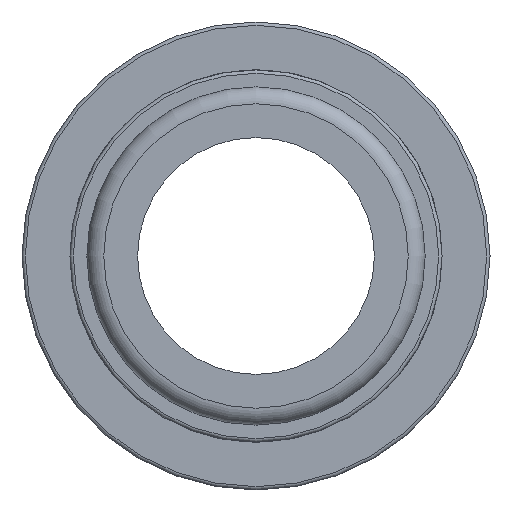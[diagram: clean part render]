
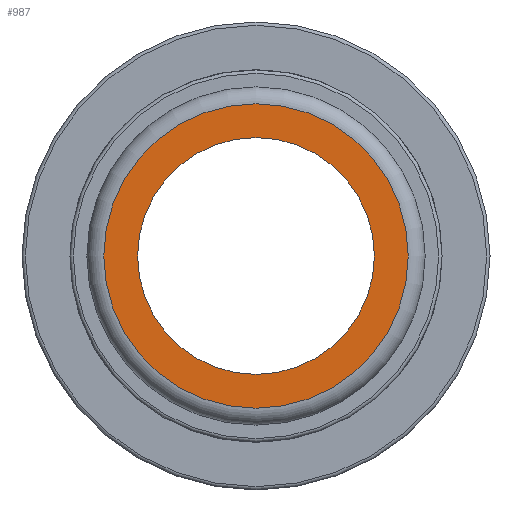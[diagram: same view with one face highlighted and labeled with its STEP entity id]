
A CAD part, left-side view. The second image highlights one B-rep face of the part: STEP entity #987.
In plain terms, the highlighted planar face has unit normal (-1, 0, 0).
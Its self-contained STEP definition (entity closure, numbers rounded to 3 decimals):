
#181=PLANE('',#1101);
#217=FACE_BOUND('',#343,.T.);
#273=FACE_OUTER_BOUND('',#342,.T.);
#342=EDGE_LOOP('',(#913));
#343=EDGE_LOOP('',(#914));
#402=CIRCLE('',#1099,14.962);
#404=CIRCLE('',#1102,11.637);
#500=VERTEX_POINT('',#1872);
#502=VERTEX_POINT('',#1877);
#640=EDGE_CURVE('',#500,#500,#402,.T.);
#642=EDGE_CURVE('',#502,#502,#404,.T.);
#913=ORIENTED_EDGE('',*,*,#640,.F.);
#914=ORIENTED_EDGE('',*,*,#642,.T.);
#987=ADVANCED_FACE('',(#273,#217),#181,.T.);
#1099=AXIS2_PLACEMENT_3D('',#1873,#1380,#1381);
#1101=AXIS2_PLACEMENT_3D('',#1876,#1384,#1385);
#1102=AXIS2_PLACEMENT_3D('',#1878,#1386,#1387);
#1380=DIRECTION('center_axis',(1.,0.,0.));
#1381=DIRECTION('ref_axis',(0.,-1.,0.));
#1384=DIRECTION('center_axis',(-1.,0.,0.));
#1385=DIRECTION('ref_axis',(0.,0.,1.));
#1386=DIRECTION('center_axis',(1.,0.,0.));
#1387=DIRECTION('ref_axis',(0.,0.,-1.));
#1872=CARTESIAN_POINT('',(-87.,14.962,0.));
#1873=CARTESIAN_POINT('Origin',(-87.,0.,0.));
#1876=CARTESIAN_POINT('Origin',(-87.,16.625,0.));
#1877=CARTESIAN_POINT('',(-87.,11.637,0.));
#1878=CARTESIAN_POINT('Origin',(-87.,0.,0.));
